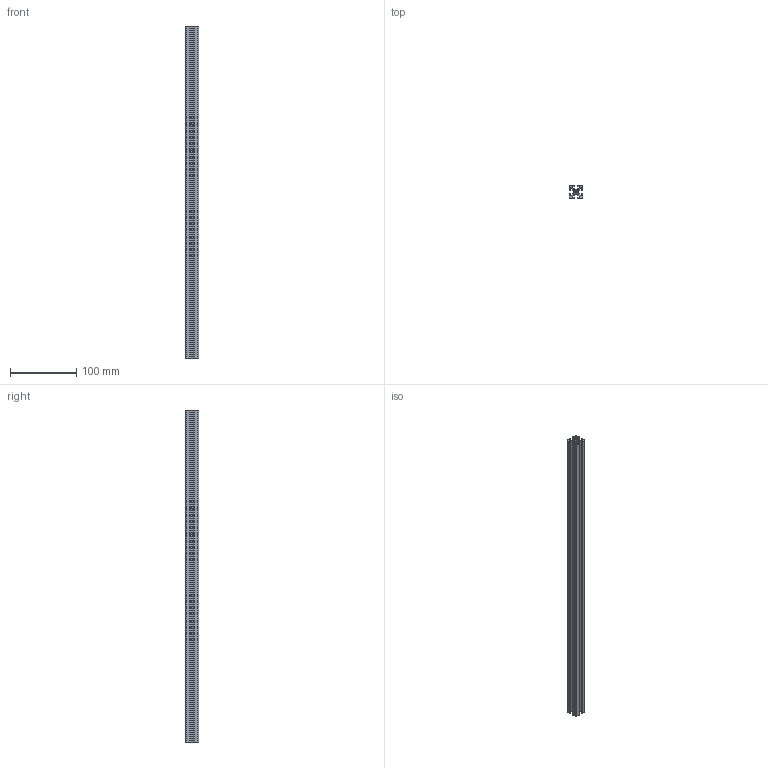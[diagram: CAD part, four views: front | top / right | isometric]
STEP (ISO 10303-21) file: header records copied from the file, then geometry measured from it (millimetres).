
FILE_DESCRIPTION (( 'STEP AP203' ), '1' );
FILE_NAME ('PP4030-500-Rollco.step', '2026-05-05T08:45:41', ( '' ), ( '' ), 'SwSTEP 2.0', 'SolidWorks 2014', '' );
FILE_SCHEMA (( 'CONFIG_CONTROL_DESIGN' ));
Length unit declared in the file: millimetre
Products named in the file (1): PP4030-500-Rollco
Bounding box: 20 x 20 x 500 mm (x, y, z)
Volume: 91925.9 mm3; surface area: 84925.2 mm2
Topology: 1 solids, 1 shells, 78 faces, 228 edges, 152 vertices
Faces by surface type: cylinder 40, plane 38
Entity records: 2693 total; most frequent: DIRECTION 466, CARTESIAN_POINT 459, ORIENTED_EDGE 456, EDGE_CURVE 228, AXIS2_PLACEMENT_3D 159, VERTEX_POINT 152, VECTOR 148, LINE 148
